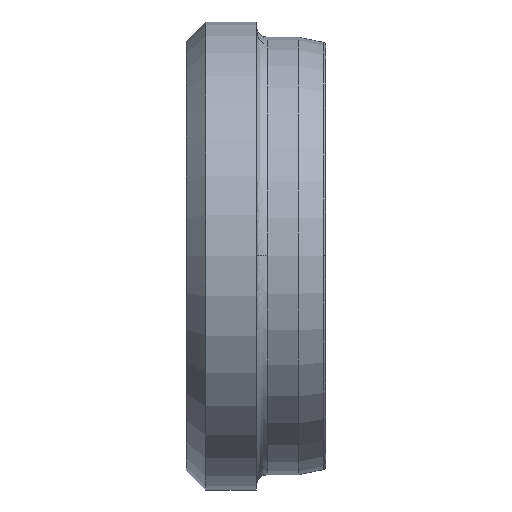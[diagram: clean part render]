
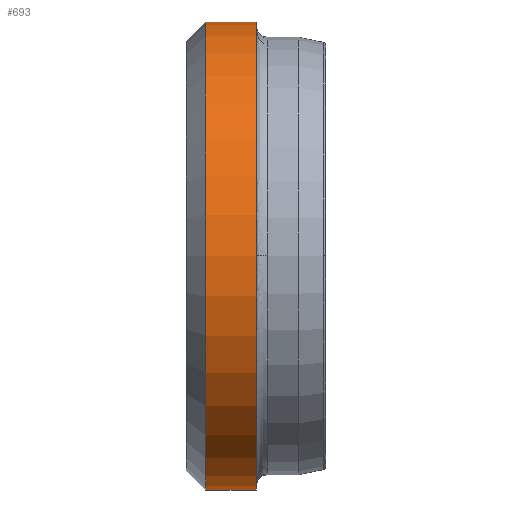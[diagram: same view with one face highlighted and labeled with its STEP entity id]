
A CAD part, top view. The second image highlights one B-rep face of the part: STEP entity #693.
In plain terms, the highlighted cylindrical face has radius 22 mm (diameter 44 mm), a partial arc.
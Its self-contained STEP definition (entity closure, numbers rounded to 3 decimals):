
#652=CARTESIAN_POINT('',(-5.037,-14.882,0.0));
#653=DIRECTION('',(1.0,0.0,0.0));
#654=DIRECTION('',(0.0,1.0,0.0));
#655=AXIS2_PLACEMENT_3D('',#652,#653,#654);
#656=CYLINDRICAL_SURFACE('',#655,22.0);
#657=CARTESIAN_POINT('',(-6.525,7.118,0.0));
#658=VERTEX_POINT('',#657);
#659=CARTESIAN_POINT('',(-1.75,7.118,0.0));
#660=VERTEX_POINT('',#659);
#661=CARTESIAN_POINT('',(-6.525,7.118,0.0));
#662=DIRECTION('',(1.0,0.0,0.0));
#663=VECTOR('',#662,4.775);
#664=LINE('',#661,#663);
#665=EDGE_CURVE('',#658,#660,#664,.T.);
#666=ORIENTED_EDGE('',*,*,#665,.F.);
#667=CARTESIAN_POINT('',(-6.525,-36.882,0.));
#668=VERTEX_POINT('',#667);
#669=CARTESIAN_POINT('',(-6.525,-14.882,0.0));
#670=DIRECTION('',(-1.0,0.0,0.0));
#671=DIRECTION('',(0.0,-1.0,0.0));
#672=AXIS2_PLACEMENT_3D('',#669,#670,#671);
#673=CIRCLE('',#672,22.0);
#674=EDGE_CURVE('',#668,#658,#673,.T.);
#675=ORIENTED_EDGE('',*,*,#674,.F.);
#676=CARTESIAN_POINT('',(-1.75,-36.882,0.));
#677=VERTEX_POINT('',#676);
#678=CARTESIAN_POINT('',(-1.75,-36.882,0.));
#679=DIRECTION('',(-1.0,0.0,0.0));
#680=VECTOR('',#679,4.775);
#681=LINE('',#678,#680);
#682=EDGE_CURVE('',#677,#668,#681,.T.);
#683=ORIENTED_EDGE('',*,*,#682,.F.);
#684=CARTESIAN_POINT('',(-1.75,-14.882,0.0));
#685=DIRECTION('',(1.0,0.0,0.0));
#686=DIRECTION('',(0.0,1.0,0.0));
#687=AXIS2_PLACEMENT_3D('',#684,#685,#686);
#688=CIRCLE('',#687,22.0);
#689=EDGE_CURVE('',#660,#677,#688,.T.);
#690=ORIENTED_EDGE('',*,*,#689,.F.);
#691=EDGE_LOOP('',(#666,#675,#683,#690));
#692=FACE_OUTER_BOUND('',#691,.T.);
#693=ADVANCED_FACE('',(#692),#656,.T.);
